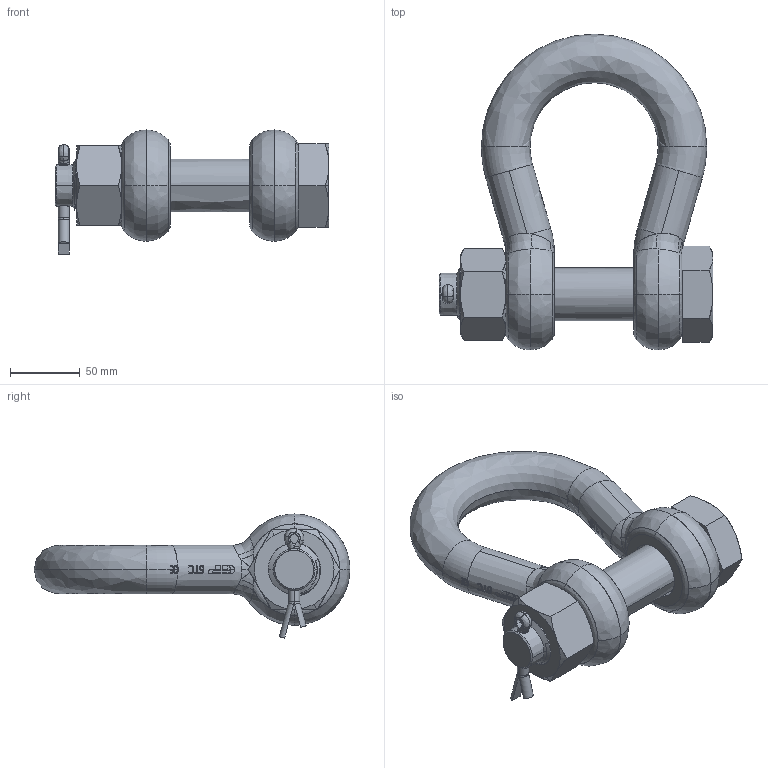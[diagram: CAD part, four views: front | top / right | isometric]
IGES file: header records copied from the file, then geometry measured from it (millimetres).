
Start section: START RECORD GO HERE.
Global section: file name: 13,5.igs; native system: IBM CATIA IGES - CATIA Vers                 ; preprocessor: Solidworks 2009            ; author: v.b.; organization: P4; date: 20090807.082421; units: millimetre
Bounding box: 197 x 227 x 89.22 mm (x, y, z)
Surface area: 124206.9 mm2 (no closed solid volume)
Topology: 0 solids, 0 shells, 927 faces, 5910 edges, 5902 vertices
Faces by surface type: bspline 437, plane 301, revolution 189
